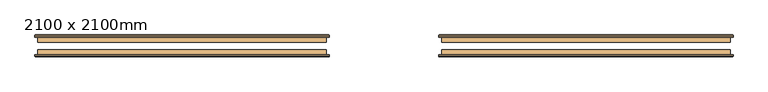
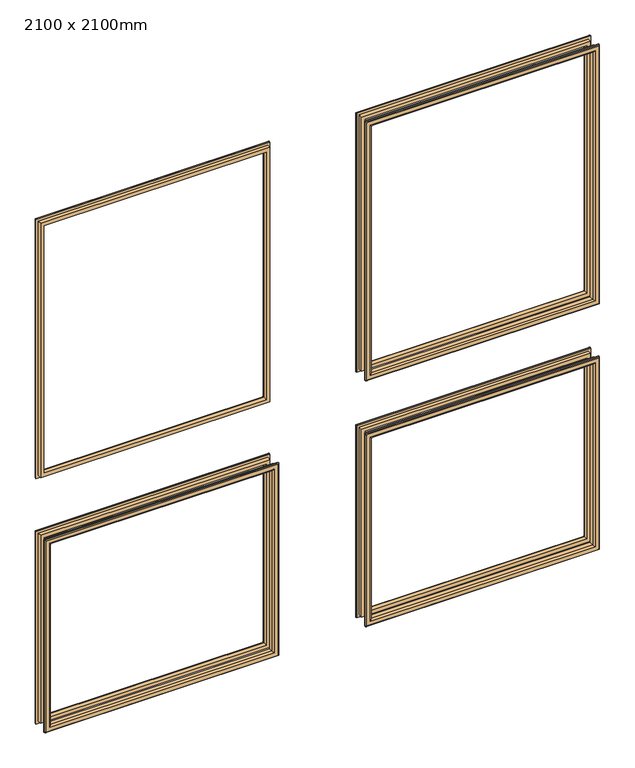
"""IFC4 building model written with IfcOpenShell, lengths in millimetres: door geometry, Дверь-Наружная-Двойная-Две_Свет : 2100 x 2100mm."""

from ifc_helpers import new_model, si_unit, frame, origin, place, context, project, spatial, ellipse_curve, source, transform, mapped, element, save
from ifc_brep_helpers import plane_surface, cylinder_surface, advanced_brep


def door_2100_x_2100mm_6a0c21b3(model_context):
    return source(origin(), model_context, "Body", "AdvancedBrep", [
        advanced_brep(
        [(-900.0, 178.85, 900.0), (-900.0, 191.35, 900.0), (-900.0, 191.35, 250.0), (-900.0, 178.85, 250.0), (-888.0, 192.35, 888.0), (-888.0, 178.85, 888.0), (-888.0, 178.85, 262.0), (-888.0, 192.35, 262.0), (-893.0, 197.35, 893.0), (-893.0, 197.35, 257.0), (-908.0, 195.35, 908.0), (-906.0, 197.35, 906.0), (-906.0, 197.35, 244.0), (-908.0, 195.35, 242.0), (-908.0, 191.35, 908.0), (-908.0, 191.35, 242.0), (-150.0, 191.35, 250.0), (-150.0, 178.85, 250.0), (-162.0, 178.85, 262.0), (-162.0, 192.35, 262.0), (-157.0, 197.35, 257.0), (-144.0, 197.35, 244.0), (-142.0, 195.35, 242.0), (-142.0, 191.35, 242.0), (-150.0, 191.35, 900.0), (-150.0, 178.85, 900.0), (-162.0, 178.85, 888.0), (-162.0, 192.35, 888.0), (-157.0, 197.35, 893.0), (-144.0, 197.35, 906.0), (-142.0, 195.35, 908.0), (-142.0, 191.35, 908.0)],
        [
            (0, 1),
            (1, 2),
            (2, 3),
            (3, 0),
            (4, 5),
            (5, 6),
            (6, 7),
            (7, 4),
            (8, 4, ellipse_curve(frame((-893.0, 192.35, 893.0), z_axis=(-0.7071067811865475, 0.0, -0.7071067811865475), x_axis=(-0.7071067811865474, 0.0, 0.7071067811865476)), 7.0710678, 5.0)),
            (7, 9, ellipse_curve(frame((-893.0, 192.35, 257.0), z_axis=(-0.7071067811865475, 0.0, 0.7071067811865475), x_axis=(0.7071067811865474, 0.0, 0.7071067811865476)), 7.0710678, 5.0)),
            (9, 8),
            (10, 11, ellipse_curve(frame((-906.0, 195.35, 906.0), z_axis=(-0.7071067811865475, 0.0, -0.7071067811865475), x_axis=(-0.7071067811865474, 0.0, 0.7071067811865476)), 2.8284271, 2.0)),
            (11, 12),
            (12, 13, ellipse_curve(frame((-906.0, 195.35, 244.0), z_axis=(-0.7071067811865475, 0.0, 0.7071067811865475), x_axis=(0.7071067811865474, 0.0, 0.7071067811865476)), 2.8284271, 2.0)),
            (13, 10),
            (14, 10),
            (13, 15),
            (15, 14),
            (2, 16),
            (16, 17),
            (17, 3),
            (6, 18),
            (18, 19),
            (19, 7),
            (19, 20, ellipse_curve(frame((-157.0, 192.35, 257.0), z_axis=(-0.7071067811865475, 0.0, -0.7071067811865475), x_axis=(-0.7071067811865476, 0.0, 0.7071067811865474)), 7.0710678, 5.0)),
            (20, 9),
            (12, 21),
            (21, 22, ellipse_curve(frame((-144.0, 195.35, 244.0), z_axis=(-0.7071067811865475, 0.0, -0.7071067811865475), x_axis=(-0.7071067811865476, 0.0, 0.7071067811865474)), 2.8284271, 2.0)),
            (22, 13),
            (22, 23),
            (23, 15),
            (16, 24),
            (24, 25),
            (25, 17),
            (18, 26),
            (26, 27),
            (27, 19),
            (27, 28, ellipse_curve(frame((-157.0, 192.35, 893.0), z_axis=(0.7071067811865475, 0.0, -0.7071067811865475), x_axis=(-0.7071067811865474, 0.0, -0.7071067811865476)), 7.0710678, 5.0)),
            (28, 20),
            (21, 29),
            (29, 30, ellipse_curve(frame((-144.0, 195.35, 906.0), z_axis=(0.7071067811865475, 0.0, -0.7071067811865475), x_axis=(-0.7071067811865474, 0.0, -0.7071067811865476)), 2.8284271, 2.0)),
            (30, 22),
            (30, 31),
            (31, 23),
            (31, 14),
            (1, 24),
            (0, 25),
            (5, 26),
            (4, 27),
            (8, 28),
            (11, 29),
            (10, 30),
        ],
        [
            plane_surface(frame((-900.0, 191.35, 900.0), z_axis=(-1.0, 0.0, 0.0), x_axis=(0.0, 0.0, -1.0))),
            plane_surface(frame((-888.0, 178.85, 888.0), z_axis=(1.0, 0.0, 0.0), x_axis=(0.0, 0.0, -1.0))),
            cylinder_surface(frame((-893.0, 192.35, 900.0), z_axis=(0.0, 0.0, 1.0), x_axis=(-1.0, 0.0, 0.0)), 5.0),
            cylinder_surface(frame((-906.0, 195.35, 900.0), z_axis=(0.0, 0.0, 1.0), x_axis=(-1.0, 0.0, 0.0)), 2.0),
            plane_surface(frame((-908.0, 195.35, 908.0), z_axis=(-1.0, 0.0, 0.0), x_axis=(0.0, 0.0, -1.0))),
            plane_surface(frame((-900.0, 191.35, 250.0), z_axis=(0.0, 0.0, -1.0), x_axis=(1.0, 0.0, 0.0))),
            plane_surface(frame((-888.0, 178.85, 262.0), z_axis=(0.0, 0.0, 1.0), x_axis=(1.0, 0.0, 0.0))),
            cylinder_surface(frame((-900.0, 192.35, 257.0), z_axis=(-1.0, 0.0, 0.0), x_axis=(0.0, 0.0, -1.0)), 5.0),
            cylinder_surface(frame((-900.0, 195.35, 244.0), z_axis=(-1.0, 0.0, 0.0), x_axis=(0.0, 0.0, -1.0)), 2.0),
            plane_surface(frame((-908.0, 195.35, 242.0), z_axis=(0.0, 0.0, -1.0), x_axis=(1.0, 0.0, 0.0))),
            plane_surface(frame((-150.0, 191.35, 250.0), z_axis=(1.0, 0.0, 0.0), x_axis=(0.0, 0.0, 1.0))),
            plane_surface(frame((-162.0, 178.85, 262.0), z_axis=(-1.0, 0.0, 0.0), x_axis=(0.0, 0.0, 1.0))),
            cylinder_surface(frame((-157.0, 192.35, 250.0), z_axis=(0.0, 0.0, -1.0), x_axis=(1.0, 0.0, 0.0)), 5.0),
            cylinder_surface(frame((-144.0, 195.35, 250.0), z_axis=(0.0, 0.0, -1.0), x_axis=(1.0, 0.0, 0.0)), 2.0),
            plane_surface(frame((-142.0, 195.35, 242.0), z_axis=(1.0, 0.0, 0.0), x_axis=(0.0, 0.0, 1.0))),
            plane_surface(frame((-142.0, 191.35, 908.0), z_axis=(0.0, -1.0, 0.0), x_axis=(-1.0, 0.0, 0.0))),
            plane_surface(frame((-150.0, 191.35, 900.0), z_axis=(0.0, 0.0, 1.0), x_axis=(-1.0, 0.0, 0.0))),
            plane_surface(frame((-150.0, 178.85, 900.0), z_axis=(0.0, -1.0, 0.0), x_axis=(-1.0, 0.0, 0.0))),
            plane_surface(frame((-162.0, 178.85, 888.0), z_axis=(0.0, 0.0, -1.0), x_axis=(-1.0, 0.0, 0.0))),
            cylinder_surface(frame((-150.0, 192.35, 893.0), z_axis=(1.0, 0.0, 0.0), x_axis=(0.0, 0.0, 1.0)), 5.0),
            plane_surface(frame((-157.0, 197.35, 893.0), z_axis=(0.0, 1.0, 0.0), x_axis=(-1.0, 0.0, 0.0))),
            cylinder_surface(frame((-150.0, 195.35, 906.0), z_axis=(1.0, 0.0, 0.0), x_axis=(0.0, 0.0, 1.0)), 2.0),
            plane_surface(frame((-142.0, 195.35, 908.0), z_axis=(0.0, 0.0, 1.0), x_axis=(-1.0, 0.0, 0.0))),
        ],
        [
            (0, [[1, 2, 3, 4]]),
            (1, [[5, 6, 7, 8]]),
            (2, [[9, -8, 10, 11]]),
            (3, [[12, 13, 14, 15]]),
            (4, [[16, -15, 17, 18]]),
            (5, [[-3, 19, 20, 21]]),
            (6, [[-7, 22, 23, 24]]),
            (7, [[-10, -24, 25, 26]]),
            (8, [[-14, 27, 28, 29]]),
            (9, [[-17, -29, 30, 31]]),
            (10, [[-20, 32, 33, 34]]),
            (11, [[-23, 35, 36, 37]]),
            (12, [[-25, -37, 38, 39]]),
            (13, [[-28, 40, 41, 42]]),
            (14, [[-30, -42, 43, 44]]),
            (15, [[-31, -44, 45, -18], [46, -32, -19, -2]]),
            (16, [[-33, -46, -1, 47]]),
            (17, [[-21, -34, -47, -4], [48, -35, -22, -6]]),
            (18, [[-36, -48, -5, 49]]),
            (19, [[-38, -49, -9, 50]]),
            (20, [[51, -40, -27, -13], [-26, -39, -50, -11]]),
            (21, [[-41, -51, -12, 52]]),
            (22, [[-43, -52, -16, -45]]),
        ],
    ),
        advanced_brep(
        [(150.0, 178.85, 900.0), (150.0, 191.35, 900.0), (150.0, 191.35, 250.0), (150.0, 178.85, 250.0), (162.0, 192.35, 888.0), (162.0, 178.85, 888.0), (162.0, 178.85, 262.0), (162.0, 192.35, 262.0), (157.0, 197.35, 893.0), (157.0, 197.35, 257.0), (142.0, 195.35, 908.0), (144.0, 197.35, 906.0), (144.0, 197.35, 244.0), (142.0, 195.35, 242.0), (142.0, 191.35, 908.0), (142.0, 191.35, 242.0), (900.0, 191.35, 250.0), (900.0, 178.85, 250.0), (888.0, 178.85, 262.0), (888.0, 192.35, 262.0), (893.0, 197.35, 257.0), (906.0, 197.35, 244.0), (908.0, 195.35, 242.0), (908.0, 191.35, 242.0), (900.0, 191.35, 900.0), (900.0, 178.85, 900.0), (888.0, 178.85, 888.0), (888.0, 192.35, 888.0), (893.0, 197.35, 893.0), (906.0, 197.35, 906.0), (908.0, 195.35, 908.0), (908.0, 191.35, 908.0)],
        [
            (0, 1),
            (1, 2),
            (2, 3),
            (3, 0),
            (4, 5),
            (5, 6),
            (6, 7),
            (7, 4),
            (8, 4, ellipse_curve(frame((157.0, 192.35, 893.0), z_axis=(-0.7071067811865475, 0.0, -0.7071067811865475), x_axis=(-0.7071067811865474, 0.0, 0.7071067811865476)), 7.0710678, 5.0)),
            (7, 9, ellipse_curve(frame((157.0, 192.35, 257.0), z_axis=(-0.7071067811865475, 0.0, 0.7071067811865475), x_axis=(0.7071067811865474, 0.0, 0.7071067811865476)), 7.0710678, 5.0)),
            (9, 8),
            (10, 11, ellipse_curve(frame((144.0, 195.35, 906.0), z_axis=(-0.7071067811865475, 0.0, -0.7071067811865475), x_axis=(-0.7071067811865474, 0.0, 0.7071067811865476)), 2.8284271, 2.0)),
            (11, 12),
            (12, 13, ellipse_curve(frame((144.0, 195.35, 244.0), z_axis=(-0.7071067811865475, 0.0, 0.7071067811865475), x_axis=(0.7071067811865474, 0.0, 0.7071067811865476)), 2.8284271, 2.0)),
            (13, 10),
            (14, 10),
            (13, 15),
            (15, 14),
            (2, 16),
            (16, 17),
            (17, 3),
            (6, 18),
            (18, 19),
            (19, 7),
            (19, 20, ellipse_curve(frame((893.0, 192.35, 257.0), z_axis=(-0.7071067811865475, 0.0, -0.7071067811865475), x_axis=(-0.7071067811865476, 0.0, 0.7071067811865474)), 7.0710678, 5.0)),
            (20, 9),
            (12, 21),
            (21, 22, ellipse_curve(frame((906.0, 195.35, 244.0), z_axis=(-0.7071067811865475, 0.0, -0.7071067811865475), x_axis=(-0.7071067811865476, 0.0, 0.7071067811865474)), 2.8284271, 2.0)),
            (22, 13),
            (22, 23),
            (23, 15),
            (16, 24),
            (24, 25),
            (25, 17),
            (18, 26),
            (26, 27),
            (27, 19),
            (27, 28, ellipse_curve(frame((893.0, 192.35, 893.0), z_axis=(0.7071067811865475, 0.0, -0.7071067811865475), x_axis=(-0.7071067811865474, 0.0, -0.7071067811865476)), 7.0710678, 5.0)),
            (28, 20),
            (21, 29),
            (29, 30, ellipse_curve(frame((906.0, 195.35, 906.0), z_axis=(0.7071067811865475, 0.0, -0.7071067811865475), x_axis=(-0.7071067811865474, 0.0, -0.7071067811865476)), 2.8284271, 2.0)),
            (30, 22),
            (30, 31),
            (31, 23),
            (31, 14),
            (1, 24),
            (0, 25),
            (5, 26),
            (4, 27),
            (8, 28),
            (11, 29),
            (10, 30),
        ],
        [
            plane_surface(frame((150.0, 191.35, 900.0), z_axis=(-1.0, 0.0, 0.0), x_axis=(0.0, 0.0, -1.0))),
            plane_surface(frame((162.0, 178.85, 888.0), z_axis=(1.0, 0.0, 0.0), x_axis=(0.0, 0.0, -1.0))),
            cylinder_surface(frame((157.0, 192.35, 900.0), z_axis=(0.0, 0.0, 1.0), x_axis=(-1.0, 0.0, 0.0)), 5.0),
            cylinder_surface(frame((144.0, 195.35, 900.0), z_axis=(0.0, 0.0, 1.0), x_axis=(-1.0, 0.0, 0.0)), 2.0),
            plane_surface(frame((142.0, 195.35, 908.0), z_axis=(-1.0, 0.0, 0.0), x_axis=(0.0, 0.0, -1.0))),
            plane_surface(frame((150.0, 191.35, 250.0), z_axis=(0.0, 0.0, -1.0), x_axis=(1.0, 0.0, 0.0))),
            plane_surface(frame((162.0, 178.85, 262.0), z_axis=(0.0, 0.0, 1.0), x_axis=(1.0, 0.0, 0.0))),
            cylinder_surface(frame((150.0, 192.35, 257.0), z_axis=(-1.0, 0.0, 0.0), x_axis=(0.0, 0.0, -1.0)), 5.0),
            cylinder_surface(frame((150.0, 195.35, 244.0), z_axis=(-1.0, 0.0, 0.0), x_axis=(0.0, 0.0, -1.0)), 2.0),
            plane_surface(frame((142.0, 195.35, 242.0), z_axis=(0.0, 0.0, -1.0), x_axis=(1.0, 0.0, 0.0))),
            plane_surface(frame((900.0, 191.35, 250.0), z_axis=(1.0, 0.0, 0.0), x_axis=(0.0, 0.0, 1.0))),
            plane_surface(frame((888.0, 178.85, 262.0), z_axis=(-1.0, 0.0, 0.0), x_axis=(0.0, 0.0, 1.0))),
            cylinder_surface(frame((893.0, 192.35, 250.0), z_axis=(0.0, 0.0, -1.0), x_axis=(1.0, 0.0, 0.0)), 5.0),
            cylinder_surface(frame((906.0, 195.35, 250.0), z_axis=(0.0, 0.0, -1.0), x_axis=(1.0, 0.0, 0.0)), 2.0),
            plane_surface(frame((908.0, 195.35, 242.0), z_axis=(1.0, 0.0, 0.0), x_axis=(0.0, 0.0, 1.0))),
            plane_surface(frame((908.0, 191.35, 908.0), z_axis=(0.0, -1.0, 0.0), x_axis=(-1.0, 0.0, 0.0))),
            plane_surface(frame((900.0, 191.35, 900.0), z_axis=(0.0, 0.0, 1.0), x_axis=(-1.0, 0.0, 0.0))),
            plane_surface(frame((900.0, 178.85, 900.0), z_axis=(0.0, -1.0, 0.0), x_axis=(-1.0, 0.0, 0.0))),
            plane_surface(frame((888.0, 178.85, 888.0), z_axis=(0.0, 0.0, -1.0), x_axis=(-1.0, 0.0, 0.0))),
            cylinder_surface(frame((900.0, 192.35, 893.0), z_axis=(1.0, 0.0, 0.0), x_axis=(0.0, 0.0, 1.0)), 5.0),
            plane_surface(frame((893.0, 197.35, 893.0), z_axis=(0.0, 1.0, 0.0), x_axis=(-1.0, 0.0, 0.0))),
            cylinder_surface(frame((900.0, 195.35, 906.0), z_axis=(1.0, 0.0, 0.0), x_axis=(0.0, 0.0, 1.0)), 2.0),
            plane_surface(frame((908.0, 195.35, 908.0), z_axis=(0.0, 0.0, 1.0), x_axis=(-1.0, 0.0, 0.0))),
        ],
        [
            (0, [[1, 2, 3, 4]]),
            (1, [[5, 6, 7, 8]]),
            (2, [[9, -8, 10, 11]]),
            (3, [[12, 13, 14, 15]]),
            (4, [[16, -15, 17, 18]]),
            (5, [[-3, 19, 20, 21]]),
            (6, [[-7, 22, 23, 24]]),
            (7, [[-10, -24, 25, 26]]),
            (8, [[-14, 27, 28, 29]]),
            (9, [[-17, -29, 30, 31]]),
            (10, [[-20, 32, 33, 34]]),
            (11, [[-23, 35, 36, 37]]),
            (12, [[-25, -37, 38, 39]]),
            (13, [[-28, 40, 41, 42]]),
            (14, [[-30, -42, 43, 44]]),
            (15, [[-31, -44, 45, -18], [46, -32, -19, -2]]),
            (16, [[-33, -46, -1, 47]]),
            (17, [[-21, -34, -47, -4], [48, -35, -22, -6]]),
            (18, [[-36, -48, -5, 49]]),
            (19, [[-38, -49, -9, 50]]),
            (20, [[51, -40, -27, -13], [-26, -39, -50, -11]]),
            (21, [[-41, -51, -12, 52]]),
            (22, [[-43, -52, -16, -45]]),
        ],
    ),
        advanced_brep(
        [(150.0, 178.85, 1980.0), (150.0, 191.35, 1980.0), (150.0, 191.35, 1100.0), (150.0, 178.85, 1100.0), (162.0, 192.35, 1968.0), (162.0, 178.85, 1968.0), (162.0, 178.85, 1112.0), (162.0, 192.35, 1112.0), (157.0, 197.35, 1973.0), (157.0, 197.35, 1107.0), (142.0, 195.35, 1988.0), (144.0, 197.35, 1986.0), (144.0, 197.35, 1094.0), (142.0, 195.35, 1092.0), (142.0, 191.35, 1988.0), (142.0, 191.35, 1092.0), (900.0, 191.35, 1100.0), (900.0, 178.85, 1100.0), (888.0, 178.85, 1112.0), (888.0, 192.35, 1112.0), (893.0, 197.35, 1107.0), (906.0, 197.35, 1094.0), (908.0, 195.35, 1092.0), (908.0, 191.35, 1092.0), (900.0, 191.35, 1980.0), (900.0, 178.85, 1980.0), (888.0, 178.85, 1968.0), (888.0, 192.35, 1968.0), (893.0, 197.35, 1973.0), (906.0, 197.35, 1986.0), (908.0, 195.35, 1988.0), (908.0, 191.35, 1988.0)],
        [
            (0, 1),
            (1, 2),
            (2, 3),
            (3, 0),
            (4, 5),
            (5, 6),
            (6, 7),
            (7, 4),
            (8, 4, ellipse_curve(frame((157.0, 192.35, 1973.0), z_axis=(-0.7071067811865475, 0.0, -0.7071067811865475), x_axis=(-0.7071067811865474, 0.0, 0.7071067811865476)), 7.0710678, 5.0)),
            (7, 9, ellipse_curve(frame((157.0, 192.35, 1107.0), z_axis=(-0.7071067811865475, 0.0, 0.7071067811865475), x_axis=(0.7071067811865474, 0.0, 0.7071067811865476)), 7.0710678, 5.0)),
            (9, 8),
            (10, 11, ellipse_curve(frame((144.0, 195.35, 1986.0), z_axis=(-0.7071067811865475, 0.0, -0.7071067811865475), x_axis=(-0.7071067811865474, 0.0, 0.7071067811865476)), 2.8284271, 2.0)),
            (11, 12),
            (12, 13, ellipse_curve(frame((144.0, 195.35, 1094.0), z_axis=(-0.7071067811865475, 0.0, 0.7071067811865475), x_axis=(0.7071067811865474, 0.0, 0.7071067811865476)), 2.8284271, 2.0)),
            (13, 10),
            (14, 10),
            (13, 15),
            (15, 14),
            (2, 16),
            (16, 17),
            (17, 3),
            (6, 18),
            (18, 19),
            (19, 7),
            (19, 20, ellipse_curve(frame((893.0, 192.35, 1107.0), z_axis=(-0.7071067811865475, 0.0, -0.7071067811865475), x_axis=(-0.7071067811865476, 0.0, 0.7071067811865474)), 7.0710678, 5.0)),
            (20, 9),
            (12, 21),
            (21, 22, ellipse_curve(frame((906.0, 195.35, 1094.0), z_axis=(-0.7071067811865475, 0.0, -0.7071067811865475), x_axis=(-0.7071067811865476, 0.0, 0.7071067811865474)), 2.8284271, 2.0)),
            (22, 13),
            (22, 23),
            (23, 15),
            (16, 24),
            (24, 25),
            (25, 17),
            (18, 26),
            (26, 27),
            (27, 19),
            (27, 28, ellipse_curve(frame((893.0, 192.35, 1973.0), z_axis=(0.7071067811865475, 0.0, -0.7071067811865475), x_axis=(-0.7071067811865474, 0.0, -0.7071067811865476)), 7.0710678, 5.0)),
            (28, 20),
            (21, 29),
            (29, 30, ellipse_curve(frame((906.0, 195.35, 1986.0), z_axis=(0.7071067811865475, 0.0, -0.7071067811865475), x_axis=(-0.7071067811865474, 0.0, -0.7071067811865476)), 2.8284271, 2.0)),
            (30, 22),
            (30, 31),
            (31, 23),
            (31, 14),
            (1, 24),
            (0, 25),
            (5, 26),
            (4, 27),
            (8, 28),
            (11, 29),
            (10, 30),
        ],
        [
            plane_surface(frame((150.0, 191.35, 1980.0), z_axis=(-1.0, 0.0, 0.0), x_axis=(0.0, 0.0, -1.0))),
            plane_surface(frame((162.0, 178.85, 1968.0), z_axis=(1.0, 0.0, 0.0), x_axis=(0.0, 0.0, -1.0))),
            cylinder_surface(frame((157.0, 192.35, 1980.0), z_axis=(0.0, 0.0, 1.0), x_axis=(-1.0, 0.0, 0.0)), 5.0),
            cylinder_surface(frame((144.0, 195.35, 1980.0), z_axis=(0.0, 0.0, 1.0), x_axis=(-1.0, 0.0, 0.0)), 2.0),
            plane_surface(frame((142.0, 195.35, 1988.0), z_axis=(-1.0, 0.0, 0.0), x_axis=(0.0, 0.0, -1.0))),
            plane_surface(frame((150.0, 191.35, 1100.0), z_axis=(0.0, 0.0, -1.0), x_axis=(1.0, 0.0, 0.0))),
            plane_surface(frame((162.0, 178.85, 1112.0), z_axis=(0.0, 0.0, 1.0), x_axis=(1.0, 0.0, 0.0))),
            cylinder_surface(frame((150.0, 192.35, 1107.0), z_axis=(-1.0, 0.0, 0.0), x_axis=(0.0, 0.0, -1.0)), 5.0),
            cylinder_surface(frame((150.0, 195.35, 1094.0), z_axis=(-1.0, 0.0, 0.0), x_axis=(0.0, 0.0, -1.0)), 2.0),
            plane_surface(frame((142.0, 195.35, 1092.0), z_axis=(0.0, 0.0, -1.0), x_axis=(1.0, 0.0, 0.0))),
            plane_surface(frame((900.0, 191.35, 1100.0), z_axis=(1.0, 0.0, 0.0), x_axis=(0.0, 0.0, 1.0))),
            plane_surface(frame((888.0, 178.85, 1112.0), z_axis=(-1.0, 0.0, 0.0), x_axis=(0.0, 0.0, 1.0))),
            cylinder_surface(frame((893.0, 192.35, 1100.0), z_axis=(0.0, 0.0, -1.0), x_axis=(1.0, 0.0, 0.0)), 5.0),
            cylinder_surface(frame((906.0, 195.35, 1100.0), z_axis=(0.0, 0.0, -1.0), x_axis=(1.0, 0.0, 0.0)), 2.0),
            plane_surface(frame((908.0, 195.35, 1092.0), z_axis=(1.0, 0.0, 0.0), x_axis=(0.0, 0.0, 1.0))),
            plane_surface(frame((908.0, 191.35, 1988.0), z_axis=(0.0, -1.0, 0.0), x_axis=(-1.0, 0.0, 0.0))),
            plane_surface(frame((900.0, 191.35, 1980.0), z_axis=(0.0, 0.0, 1.0), x_axis=(-1.0, 0.0, 0.0))),
            plane_surface(frame((900.0, 178.85, 1980.0), z_axis=(0.0, -1.0, 0.0), x_axis=(-1.0, 0.0, 0.0))),
            plane_surface(frame((888.0, 178.85, 1968.0), z_axis=(0.0, 0.0, -1.0), x_axis=(-1.0, 0.0, 0.0))),
            cylinder_surface(frame((900.0, 192.35, 1973.0), z_axis=(1.0, 0.0, 0.0), x_axis=(0.0, 0.0, 1.0)), 5.0),
            plane_surface(frame((893.0, 197.35, 1973.0), z_axis=(0.0, 1.0, 0.0), x_axis=(-1.0, 0.0, 0.0))),
            cylinder_surface(frame((900.0, 195.35, 1986.0), z_axis=(1.0, 0.0, 0.0), x_axis=(0.0, 0.0, 1.0)), 2.0),
            plane_surface(frame((908.0, 195.35, 1988.0), z_axis=(0.0, 0.0, 1.0), x_axis=(-1.0, 0.0, 0.0))),
        ],
        [
            (0, [[1, 2, 3, 4]]),
            (1, [[5, 6, 7, 8]]),
            (2, [[9, -8, 10, 11]]),
            (3, [[12, 13, 14, 15]]),
            (4, [[16, -15, 17, 18]]),
            (5, [[-3, 19, 20, 21]]),
            (6, [[-7, 22, 23, 24]]),
            (7, [[-10, -24, 25, 26]]),
            (8, [[-14, 27, 28, 29]]),
            (9, [[-17, -29, 30, 31]]),
            (10, [[-20, 32, 33, 34]]),
            (11, [[-23, 35, 36, 37]]),
            (12, [[-25, -37, 38, 39]]),
            (13, [[-28, 40, 41, 42]]),
            (14, [[-30, -42, 43, 44]]),
            (15, [[-31, -44, 45, -18], [46, -32, -19, -2]]),
            (16, [[-33, -46, -1, 47]]),
            (17, [[-21, -34, -47, -4], [48, -35, -22, -6]]),
            (18, [[-36, -48, -5, 49]]),
            (19, [[-38, -49, -9, 50]]),
            (20, [[51, -40, -27, -13], [-26, -39, -50, -11]]),
            (21, [[-41, -51, -12, 52]]),
            (22, [[-43, -52, -16, -45]]),
        ],
    ),
        advanced_brep(
        [(-900.0, 178.85, 1980.0), (-900.0, 191.35, 1980.0), (-900.0, 191.35, 1100.0), (-900.0, 178.85, 1100.0), (-888.0, 192.35, 1968.0), (-888.0, 178.85, 1968.0), (-888.0, 178.85, 1112.0), (-888.0, 192.35, 1112.0), (-893.0, 197.35, 1973.0), (-893.0, 197.35, 1107.0), (-908.0, 195.35, 1988.0), (-906.0, 197.35, 1986.0), (-906.0, 197.35, 1094.0), (-908.0, 195.35, 1092.0), (-908.0, 191.35, 1988.0), (-908.0, 191.35, 1092.0), (-150.0, 191.35, 1100.0), (-150.0, 178.85, 1100.0), (-162.0, 178.85, 1112.0), (-162.0, 192.35, 1112.0), (-157.0, 197.35, 1107.0), (-144.0, 197.35, 1094.0), (-142.0, 195.35, 1092.0), (-142.0, 191.35, 1092.0), (-150.0, 191.35, 1980.0), (-150.0, 178.85, 1980.0), (-162.0, 178.85, 1968.0), (-162.0, 192.35, 1968.0), (-157.0, 197.35, 1973.0), (-144.0, 197.35, 1986.0), (-142.0, 195.35, 1988.0), (-142.0, 191.35, 1988.0)],
        [
            (0, 1),
            (1, 2),
            (2, 3),
            (3, 0),
            (4, 5),
            (5, 6),
            (6, 7),
            (7, 4),
            (8, 4, ellipse_curve(frame((-893.0, 192.35, 1973.0), z_axis=(-0.7071067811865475, 0.0, -0.7071067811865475), x_axis=(-0.7071067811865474, 0.0, 0.7071067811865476)), 7.0710678, 5.0)),
            (7, 9, ellipse_curve(frame((-893.0, 192.35, 1107.0), z_axis=(-0.7071067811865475, 0.0, 0.7071067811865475), x_axis=(0.7071067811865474, 0.0, 0.7071067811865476)), 7.0710678, 5.0)),
            (9, 8),
            (10, 11, ellipse_curve(frame((-906.0, 195.35, 1986.0), z_axis=(-0.7071067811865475, 0.0, -0.7071067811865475), x_axis=(-0.7071067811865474, 0.0, 0.7071067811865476)), 2.8284271, 2.0)),
            (11, 12),
            (12, 13, ellipse_curve(frame((-906.0, 195.35, 1094.0), z_axis=(-0.7071067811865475, 0.0, 0.7071067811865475), x_axis=(0.7071067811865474, 0.0, 0.7071067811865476)), 2.8284271, 2.0)),
            (13, 10),
            (14, 10),
            (13, 15),
            (15, 14),
            (2, 16),
            (16, 17),
            (17, 3),
            (6, 18),
            (18, 19),
            (19, 7),
            (19, 20, ellipse_curve(frame((-157.0, 192.35, 1107.0), z_axis=(-0.7071067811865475, 0.0, -0.7071067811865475), x_axis=(-0.7071067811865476, 0.0, 0.7071067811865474)), 7.0710678, 5.0)),
            (20, 9),
            (12, 21),
            (21, 22, ellipse_curve(frame((-144.0, 195.35, 1094.0), z_axis=(-0.7071067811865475, 0.0, -0.7071067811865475), x_axis=(-0.7071067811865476, 0.0, 0.7071067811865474)), 2.8284271, 2.0)),
            (22, 13),
            (22, 23),
            (23, 15),
            (16, 24),
            (24, 25),
            (25, 17),
            (18, 26),
            (26, 27),
            (27, 19),
            (27, 28, ellipse_curve(frame((-157.0, 192.35, 1973.0), z_axis=(0.7071067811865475, 0.0, -0.7071067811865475), x_axis=(-0.7071067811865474, 0.0, -0.7071067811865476)), 7.0710678, 5.0)),
            (28, 20),
            (21, 29),
            (29, 30, ellipse_curve(frame((-144.0, 195.35, 1986.0), z_axis=(0.7071067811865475, 0.0, -0.7071067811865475), x_axis=(-0.7071067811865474, 0.0, -0.7071067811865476)), 2.8284271, 2.0)),
            (30, 22),
            (30, 31),
            (31, 23),
            (31, 14),
            (1, 24),
            (0, 25),
            (5, 26),
            (4, 27),
            (8, 28),
            (11, 29),
            (10, 30),
        ],
        [
            plane_surface(frame((-900.0, 191.35, 1980.0), z_axis=(-1.0, 0.0, 0.0), x_axis=(0.0, 0.0, -1.0))),
            plane_surface(frame((-888.0, 178.85, 1968.0), z_axis=(1.0, 0.0, 0.0), x_axis=(0.0, 0.0, -1.0))),
            cylinder_surface(frame((-893.0, 192.35, 1980.0), z_axis=(0.0, 0.0, 1.0), x_axis=(-1.0, 0.0, 0.0)), 5.0),
            cylinder_surface(frame((-906.0, 195.35, 1980.0), z_axis=(0.0, 0.0, 1.0), x_axis=(-1.0, 0.0, 0.0)), 2.0),
            plane_surface(frame((-908.0, 195.35, 1988.0), z_axis=(-1.0, 0.0, 0.0), x_axis=(0.0, 0.0, -1.0))),
            plane_surface(frame((-900.0, 191.35, 1100.0), z_axis=(0.0, 0.0, -1.0), x_axis=(1.0, 0.0, 0.0))),
            plane_surface(frame((-888.0, 178.85, 1112.0), z_axis=(0.0, 0.0, 1.0), x_axis=(1.0, 0.0, 0.0))),
            cylinder_surface(frame((-900.0, 192.35, 1107.0), z_axis=(-1.0, 0.0, 0.0), x_axis=(0.0, 0.0, -1.0)), 5.0),
            cylinder_surface(frame((-900.0, 195.35, 1094.0), z_axis=(-1.0, 0.0, 0.0), x_axis=(0.0, 0.0, -1.0)), 2.0),
            plane_surface(frame((-908.0, 195.35, 1092.0), z_axis=(0.0, 0.0, -1.0), x_axis=(1.0, 0.0, 0.0))),
            plane_surface(frame((-150.0, 191.35, 1100.0), z_axis=(1.0, 0.0, 0.0), x_axis=(0.0, 0.0, 1.0))),
            plane_surface(frame((-162.0, 178.85, 1112.0), z_axis=(-1.0, 0.0, 0.0), x_axis=(0.0, 0.0, 1.0))),
            cylinder_surface(frame((-157.0, 192.35, 1100.0), z_axis=(0.0, 0.0, -1.0), x_axis=(1.0, 0.0, 0.0)), 5.0),
            cylinder_surface(frame((-144.0, 195.35, 1100.0), z_axis=(0.0, 0.0, -1.0), x_axis=(1.0, 0.0, 0.0)), 2.0),
            plane_surface(frame((-142.0, 195.35, 1092.0), z_axis=(1.0, 0.0, 0.0), x_axis=(0.0, 0.0, 1.0))),
            plane_surface(frame((-142.0, 191.35, 1988.0), z_axis=(0.0, -1.0, 0.0), x_axis=(-1.0, 0.0, 0.0))),
            plane_surface(frame((-150.0, 191.35, 1980.0), z_axis=(0.0, 0.0, 1.0), x_axis=(-1.0, 0.0, 0.0))),
            plane_surface(frame((-150.0, 178.85, 1980.0), z_axis=(0.0, -1.0, 0.0), x_axis=(-1.0, 0.0, 0.0))),
            plane_surface(frame((-162.0, 178.85, 1968.0), z_axis=(0.0, 0.0, -1.0), x_axis=(-1.0, 0.0, 0.0))),
            cylinder_surface(frame((-150.0, 192.35, 1973.0), z_axis=(1.0, 0.0, 0.0), x_axis=(0.0, 0.0, 1.0)), 5.0),
            plane_surface(frame((-157.0, 197.35, 1973.0), z_axis=(0.0, 1.0, 0.0), x_axis=(-1.0, 0.0, 0.0))),
            cylinder_surface(frame((-150.0, 195.35, 1986.0), z_axis=(1.0, 0.0, 0.0), x_axis=(0.0, 0.0, 1.0)), 2.0),
            plane_surface(frame((-142.0, 195.35, 1988.0), z_axis=(0.0, 0.0, 1.0), x_axis=(-1.0, 0.0, 0.0))),
        ],
        [
            (0, [[1, 2, 3, 4]]),
            (1, [[5, 6, 7, 8]]),
            (2, [[9, -8, 10, 11]]),
            (3, [[12, 13, 14, 15]]),
            (4, [[16, -15, 17, 18]]),
            (5, [[-3, 19, 20, 21]]),
            (6, [[-7, 22, 23, 24]]),
            (7, [[-10, -24, 25, 26]]),
            (8, [[-14, 27, 28, 29]]),
            (9, [[-17, -29, 30, 31]]),
            (10, [[-20, 32, 33, 34]]),
            (11, [[-23, 35, 36, 37]]),
            (12, [[-25, -37, 38, 39]]),
            (13, [[-28, 40, 41, 42]]),
            (14, [[-30, -42, 43, 44]]),
            (15, [[-31, -44, 45, -18], [46, -32, -19, -2]]),
            (16, [[-33, -46, -1, 47]]),
            (17, [[-21, -34, -47, -4], [48, -35, -22, -6]]),
            (18, [[-36, -48, -5, 49]]),
            (19, [[-38, -49, -9, 50]]),
            (20, [[51, -40, -27, -13], [-26, -39, -50, -11]]),
            (21, [[-41, -51, -12, 52]]),
            (22, [[-43, -52, -16, -45]]),
        ],
    ),
        advanced_brep(
        [(-900.0, 158.85, 250.0), (-900.0, 146.35, 250.0), (-900.0, 146.35, 900.0), (-900.0, 158.85, 900.0), (-888.0, 145.35, 262.0), (-888.0, 158.85, 262.0), (-888.0, 158.85, 888.0), (-888.0, 145.35, 888.0), (-893.0, 140.35, 257.0), (-893.0, 140.35, 893.0), (-908.0, 142.35, 242.0), (-906.0, 140.35, 244.0), (-906.0, 140.35, 906.0), (-908.0, 142.35, 908.0), (-908.0, 146.35, 242.0), (-908.0, 146.35, 908.0), (-150.0, 146.35, 900.0), (-150.0, 158.85, 900.0), (-162.0, 158.85, 888.0), (-162.0, 145.35, 888.0), (-157.0, 140.35, 893.0), (-144.0, 140.35, 906.0), (-142.0, 142.35, 908.0), (-142.0, 146.35, 908.0), (-150.0, 146.35, 250.0), (-150.0, 158.85, 250.0), (-162.0, 158.85, 262.0), (-162.0, 145.35, 262.0), (-157.0, 140.35, 257.0), (-144.0, 140.35, 244.0), (-142.0, 142.35, 242.0), (-142.0, 146.35, 242.0)],
        [
            (0, 1),
            (1, 2),
            (2, 3),
            (3, 0),
            (4, 5),
            (5, 6),
            (6, 7),
            (7, 4),
            (8, 4, ellipse_curve(frame((-893.0, 145.35, 257.0), z_axis=(-0.7071067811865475, 0.0, 0.7071067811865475), x_axis=(-0.7071067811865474, 0.0, -0.7071067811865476)), 7.0710678, 5.0)),
            (7, 9, ellipse_curve(frame((-893.0, 145.35, 893.0), z_axis=(-0.7071067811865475, 0.0, -0.7071067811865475), x_axis=(0.7071067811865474, 0.0, -0.7071067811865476)), 7.0710678, 5.0)),
            (9, 8),
            (10, 11, ellipse_curve(frame((-906.0, 142.35, 244.0), z_axis=(-0.7071067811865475, 0.0, 0.7071067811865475), x_axis=(-0.7071067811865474, 0.0, -0.7071067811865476)), 2.8284271, 2.0)),
            (11, 12),
            (12, 13, ellipse_curve(frame((-906.0, 142.35, 906.0), z_axis=(-0.7071067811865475, 0.0, -0.7071067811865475), x_axis=(0.7071067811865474, 0.0, -0.7071067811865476)), 2.8284271, 2.0)),
            (13, 10),
            (14, 10),
            (13, 15),
            (15, 14),
            (2, 16),
            (16, 17),
            (17, 3),
            (6, 18),
            (18, 19),
            (19, 7),
            (19, 20, ellipse_curve(frame((-157.0, 145.35, 893.0), z_axis=(-0.7071067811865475, 0.0, 0.7071067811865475), x_axis=(-0.7071067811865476, 0.0, -0.7071067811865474)), 7.0710678, 5.0)),
            (20, 9),
            (12, 21),
            (21, 22, ellipse_curve(frame((-144.0, 142.35, 906.0), z_axis=(-0.7071067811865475, 0.0, 0.7071067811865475), x_axis=(-0.7071067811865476, 0.0, -0.7071067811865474)), 2.8284271, 2.0)),
            (22, 13),
            (22, 23),
            (23, 15),
            (16, 24),
            (24, 25),
            (25, 17),
            (18, 26),
            (26, 27),
            (27, 19),
            (27, 28, ellipse_curve(frame((-157.0, 145.35, 257.0), z_axis=(0.7071067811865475, 0.0, 0.7071067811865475), x_axis=(-0.7071067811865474, 0.0, 0.7071067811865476)), 7.0710678, 5.0)),
            (28, 20),
            (21, 29),
            (29, 30, ellipse_curve(frame((-144.0, 142.35, 244.0), z_axis=(0.7071067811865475, 0.0, 0.7071067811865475), x_axis=(-0.7071067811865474, 0.0, 0.7071067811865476)), 2.8284271, 2.0)),
            (30, 22),
            (30, 31),
            (31, 23),
            (31, 14),
            (1, 24),
            (0, 25),
            (5, 26),
            (4, 27),
            (8, 28),
            (11, 29),
            (10, 30),
        ],
        [
            plane_surface(frame((-900.0, 146.35, 250.0), z_axis=(-1.0, 0.0, 0.0), x_axis=(0.0, 0.0, 1.0))),
            plane_surface(frame((-888.0, 158.85, 262.0), z_axis=(1.0, 0.0, 0.0), x_axis=(0.0, 0.0, 1.0))),
            cylinder_surface(frame((-893.0, 145.35, 250.0), z_axis=(0.0, 0.0, -1.0), x_axis=(-1.0, 0.0, 0.0)), 5.0),
            cylinder_surface(frame((-906.0, 142.35, 250.0), z_axis=(0.0, 0.0, -1.0), x_axis=(-1.0, 0.0, 0.0)), 2.0),
            plane_surface(frame((-908.0, 142.35, 242.0), z_axis=(-1.0, 0.0, 0.0), x_axis=(0.0, 0.0, 1.0))),
            plane_surface(frame((-900.0, 146.35, 900.0), z_axis=(0.0, 0.0, 1.0), x_axis=(1.0, 0.0, 0.0))),
            plane_surface(frame((-888.0, 158.85, 888.0), z_axis=(0.0, 0.0, -1.0), x_axis=(1.0, 0.0, 0.0))),
            cylinder_surface(frame((-900.0, 145.35, 893.0), z_axis=(-1.0, 0.0, 0.0), x_axis=(0.0, 0.0, 1.0)), 5.0),
            cylinder_surface(frame((-900.0, 142.35, 906.0), z_axis=(-1.0, 0.0, 0.0), x_axis=(0.0, 0.0, 1.0)), 2.0),
            plane_surface(frame((-908.0, 142.35, 908.0), z_axis=(0.0, 0.0, 1.0), x_axis=(1.0, 0.0, 0.0))),
            plane_surface(frame((-150.0, 146.35, 900.0), z_axis=(1.0, 0.0, 0.0), x_axis=(0.0, 0.0, -1.0))),
            plane_surface(frame((-162.0, 158.85, 888.0), z_axis=(-1.0, 0.0, 0.0), x_axis=(0.0, 0.0, -1.0))),
            cylinder_surface(frame((-157.0, 145.35, 900.0), z_axis=(0.0, 0.0, 1.0), x_axis=(1.0, 0.0, 0.0)), 5.0),
            cylinder_surface(frame((-144.0, 142.35, 900.0), z_axis=(0.0, 0.0, 1.0), x_axis=(1.0, 0.0, 0.0)), 2.0),
            plane_surface(frame((-142.0, 142.35, 908.0), z_axis=(1.0, 0.0, 0.0), x_axis=(0.0, 0.0, -1.0))),
            plane_surface(frame((-142.0, 146.35, 242.0), z_axis=(0.0, 1.0, 0.0), x_axis=(-1.0, 0.0, 0.0))),
            plane_surface(frame((-150.0, 146.35, 250.0), z_axis=(0.0, 0.0, -1.0), x_axis=(-1.0, 0.0, 0.0))),
            plane_surface(frame((-150.0, 158.85, 250.0), z_axis=(0.0, 1.0, 0.0), x_axis=(-1.0, 0.0, 0.0))),
            plane_surface(frame((-162.0, 158.85, 262.0), z_axis=(0.0, 0.0, 1.0), x_axis=(-1.0, 0.0, 0.0))),
            cylinder_surface(frame((-150.0, 145.35, 257.0), z_axis=(1.0, 0.0, 0.0), x_axis=(0.0, 0.0, -1.0)), 5.0),
            plane_surface(frame((-157.0, 140.35, 257.0), z_axis=(0.0, -1.0, 0.0), x_axis=(-1.0, 0.0, 0.0))),
            cylinder_surface(frame((-150.0, 142.35, 244.0), z_axis=(1.0, 0.0, 0.0), x_axis=(0.0, 0.0, -1.0)), 2.0),
            plane_surface(frame((-142.0, 142.35, 242.0), z_axis=(0.0, 0.0, -1.0), x_axis=(-1.0, 0.0, 0.0))),
        ],
        [
            (0, [[1, 2, 3, 4]]),
            (1, [[5, 6, 7, 8]]),
            (2, [[9, -8, 10, 11]]),
            (3, [[12, 13, 14, 15]]),
            (4, [[16, -15, 17, 18]]),
            (5, [[-3, 19, 20, 21]]),
            (6, [[-7, 22, 23, 24]]),
            (7, [[-10, -24, 25, 26]]),
            (8, [[-14, 27, 28, 29]]),
            (9, [[-17, -29, 30, 31]]),
            (10, [[-20, 32, 33, 34]]),
            (11, [[-23, 35, 36, 37]]),
            (12, [[-25, -37, 38, 39]]),
            (13, [[-28, 40, 41, 42]]),
            (14, [[-30, -42, 43, 44]]),
            (15, [[-31, -44, 45, -18], [46, -32, -19, -2]]),
            (16, [[-33, -46, -1, 47]]),
            (17, [[-21, -34, -47, -4], [48, -35, -22, -6]]),
            (18, [[-36, -48, -5, 49]]),
            (19, [[-38, -49, -9, 50]]),
            (20, [[51, -40, -27, -13], [-26, -39, -50, -11]]),
            (21, [[-41, -51, -12, 52]]),
            (22, [[-43, -52, -16, -45]]),
        ],
    ),
        advanced_brep(
        [(150.0, 158.85, 250.0), (150.0, 146.35, 250.0), (150.0, 146.35, 900.0), (150.0, 158.85, 900.0), (162.0, 145.35, 262.0), (162.0, 158.85, 262.0), (162.0, 158.85, 888.0), (162.0, 145.35, 888.0), (157.0, 140.35, 257.0), (157.0, 140.35, 893.0), (142.0, 142.35, 242.0), (144.0, 140.35, 244.0), (144.0, 140.35, 906.0), (142.0, 142.35, 908.0), (142.0, 146.35, 242.0), (142.0, 146.35, 908.0), (900.0, 146.35, 900.0), (900.0, 158.85, 900.0), (888.0, 158.85, 888.0), (888.0, 145.35, 888.0), (893.0, 140.35, 893.0), (906.0, 140.35, 906.0), (908.0, 142.35, 908.0), (908.0, 146.35, 908.0), (900.0, 146.35, 250.0), (900.0, 158.85, 250.0), (888.0, 158.85, 262.0), (888.0, 145.35, 262.0), (893.0, 140.35, 257.0), (906.0, 140.35, 244.0), (908.0, 142.35, 242.0), (908.0, 146.35, 242.0)],
        [
            (0, 1),
            (1, 2),
            (2, 3),
            (3, 0),
            (4, 5),
            (5, 6),
            (6, 7),
            (7, 4),
            (8, 4, ellipse_curve(frame((157.0, 145.35, 257.0), z_axis=(-0.7071067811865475, 0.0, 0.7071067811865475), x_axis=(-0.7071067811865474, 0.0, -0.7071067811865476)), 7.0710678, 5.0)),
            (7, 9, ellipse_curve(frame((157.0, 145.35, 893.0), z_axis=(-0.7071067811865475, 0.0, -0.7071067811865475), x_axis=(0.7071067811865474, 0.0, -0.7071067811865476)), 7.0710678, 5.0)),
            (9, 8),
            (10, 11, ellipse_curve(frame((144.0, 142.35, 244.0), z_axis=(-0.7071067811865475, 0.0, 0.7071067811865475), x_axis=(-0.7071067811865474, 0.0, -0.7071067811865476)), 2.8284271, 2.0)),
            (11, 12),
            (12, 13, ellipse_curve(frame((144.0, 142.35, 906.0), z_axis=(-0.7071067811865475, 0.0, -0.7071067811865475), x_axis=(0.7071067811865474, 0.0, -0.7071067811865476)), 2.8284271, 2.0)),
            (13, 10),
            (14, 10),
            (13, 15),
            (15, 14),
            (2, 16),
            (16, 17),
            (17, 3),
            (6, 18),
            (18, 19),
            (19, 7),
            (19, 20, ellipse_curve(frame((893.0, 145.35, 893.0), z_axis=(-0.7071067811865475, 0.0, 0.7071067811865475), x_axis=(-0.7071067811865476, 0.0, -0.7071067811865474)), 7.0710678, 5.0)),
            (20, 9),
            (12, 21),
            (21, 22, ellipse_curve(frame((906.0, 142.35, 906.0), z_axis=(-0.7071067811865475, 0.0, 0.7071067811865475), x_axis=(-0.7071067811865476, 0.0, -0.7071067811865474)), 2.8284271, 2.0)),
            (22, 13),
            (22, 23),
            (23, 15),
            (16, 24),
            (24, 25),
            (25, 17),
            (18, 26),
            (26, 27),
            (27, 19),
            (27, 28, ellipse_curve(frame((893.0, 145.35, 257.0), z_axis=(0.7071067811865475, 0.0, 0.7071067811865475), x_axis=(-0.7071067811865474, 0.0, 0.7071067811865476)), 7.0710678, 5.0)),
            (28, 20),
            (21, 29),
            (29, 30, ellipse_curve(frame((906.0, 142.35, 244.0), z_axis=(0.7071067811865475, 0.0, 0.7071067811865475), x_axis=(-0.7071067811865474, 0.0, 0.7071067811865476)), 2.8284271, 2.0)),
            (30, 22),
            (30, 31),
            (31, 23),
            (31, 14),
            (1, 24),
            (0, 25),
            (5, 26),
            (4, 27),
            (8, 28),
            (11, 29),
            (10, 30),
        ],
        [
            plane_surface(frame((150.0, 146.35, 250.0), z_axis=(-1.0, 0.0, 0.0), x_axis=(0.0, 0.0, 1.0))),
            plane_surface(frame((162.0, 158.85, 262.0), z_axis=(1.0, 0.0, 0.0), x_axis=(0.0, 0.0, 1.0))),
            cylinder_surface(frame((157.0, 145.35, 250.0), z_axis=(0.0, 0.0, -1.0), x_axis=(-1.0, 0.0, 0.0)), 5.0),
            cylinder_surface(frame((144.0, 142.35, 250.0), z_axis=(0.0, 0.0, -1.0), x_axis=(-1.0, 0.0, 0.0)), 2.0),
            plane_surface(frame((142.0, 142.35, 242.0), z_axis=(-1.0, 0.0, 0.0), x_axis=(0.0, 0.0, 1.0))),
            plane_surface(frame((150.0, 146.35, 900.0), z_axis=(0.0, 0.0, 1.0), x_axis=(1.0, 0.0, 0.0))),
            plane_surface(frame((162.0, 158.85, 888.0), z_axis=(0.0, 0.0, -1.0), x_axis=(1.0, 0.0, 0.0))),
            cylinder_surface(frame((150.0, 145.35, 893.0), z_axis=(-1.0, 0.0, 0.0), x_axis=(0.0, 0.0, 1.0)), 5.0),
            cylinder_surface(frame((150.0, 142.35, 906.0), z_axis=(-1.0, 0.0, 0.0), x_axis=(0.0, 0.0, 1.0)), 2.0),
            plane_surface(frame((142.0, 142.35, 908.0), z_axis=(0.0, 0.0, 1.0), x_axis=(1.0, 0.0, 0.0))),
            plane_surface(frame((900.0, 146.35, 900.0), z_axis=(1.0, 0.0, 0.0), x_axis=(0.0, 0.0, -1.0))),
            plane_surface(frame((888.0, 158.85, 888.0), z_axis=(-1.0, 0.0, 0.0), x_axis=(0.0, 0.0, -1.0))),
            cylinder_surface(frame((893.0, 145.35, 900.0), z_axis=(0.0, 0.0, 1.0), x_axis=(1.0, 0.0, 0.0)), 5.0),
            cylinder_surface(frame((906.0, 142.35, 900.0), z_axis=(0.0, 0.0, 1.0), x_axis=(1.0, 0.0, 0.0)), 2.0),
            plane_surface(frame((908.0, 142.35, 908.0), z_axis=(1.0, 0.0, 0.0), x_axis=(0.0, 0.0, -1.0))),
            plane_surface(frame((908.0, 146.35, 242.0), z_axis=(0.0, 1.0, 0.0), x_axis=(-1.0, 0.0, 0.0))),
            plane_surface(frame((900.0, 146.35, 250.0), z_axis=(0.0, 0.0, -1.0), x_axis=(-1.0, 0.0, 0.0))),
            plane_surface(frame((900.0, 158.85, 250.0), z_axis=(0.0, 1.0, 0.0), x_axis=(-1.0, 0.0, 0.0))),
            plane_surface(frame((888.0, 158.85, 262.0), z_axis=(0.0, 0.0, 1.0), x_axis=(-1.0, 0.0, 0.0))),
            cylinder_surface(frame((900.0, 145.35, 257.0), z_axis=(1.0, 0.0, 0.0), x_axis=(0.0, 0.0, -1.0)), 5.0),
            plane_surface(frame((893.0, 140.35, 257.0), z_axis=(0.0, -1.0, 0.0), x_axis=(-1.0, 0.0, 0.0))),
            cylinder_surface(frame((900.0, 142.35, 244.0), z_axis=(1.0, 0.0, 0.0), x_axis=(0.0, 0.0, -1.0)), 2.0),
            plane_surface(frame((908.0, 142.35, 242.0), z_axis=(0.0, 0.0, -1.0), x_axis=(-1.0, 0.0, 0.0))),
        ],
        [
            (0, [[1, 2, 3, 4]]),
            (1, [[5, 6, 7, 8]]),
            (2, [[9, -8, 10, 11]]),
            (3, [[12, 13, 14, 15]]),
            (4, [[16, -15, 17, 18]]),
            (5, [[-3, 19, 20, 21]]),
            (6, [[-7, 22, 23, 24]]),
            (7, [[-10, -24, 25, 26]]),
            (8, [[-14, 27, 28, 29]]),
            (9, [[-17, -29, 30, 31]]),
            (10, [[-20, 32, 33, 34]]),
            (11, [[-23, 35, 36, 37]]),
            (12, [[-25, -37, 38, 39]]),
            (13, [[-28, 40, 41, 42]]),
            (14, [[-30, -42, 43, 44]]),
            (15, [[-31, -44, 45, -18], [46, -32, -19, -2]]),
            (16, [[-33, -46, -1, 47]]),
            (17, [[-21, -34, -47, -4], [48, -35, -22, -6]]),
            (18, [[-36, -48, -5, 49]]),
            (19, [[-38, -49, -9, 50]]),
            (20, [[51, -40, -27, -13], [-26, -39, -50, -11]]),
            (21, [[-41, -51, -12, 52]]),
            (22, [[-43, -52, -16, -45]]),
        ],
    ),
        advanced_brep(
        [(150.0, 158.85, 1100.0), (150.0, 146.35, 1100.0), (150.0, 146.35, 1980.0), (150.0, 158.85, 1980.0), (162.0, 145.35, 1112.0), (162.0, 158.85, 1112.0), (162.0, 158.85, 1968.0), (162.0, 145.35, 1968.0), (157.0, 140.35, 1107.0), (157.0, 140.35, 1973.0), (142.0, 142.35, 1092.0), (144.0, 140.35, 1094.0), (144.0, 140.35, 1986.0), (142.0, 142.35, 1988.0), (142.0, 146.35, 1092.0), (142.0, 146.35, 1988.0), (900.0, 146.35, 1980.0), (900.0, 158.85, 1980.0), (888.0, 158.85, 1968.0), (888.0, 145.35, 1968.0), (893.0, 140.35, 1973.0), (906.0, 140.35, 1986.0), (908.0, 142.35, 1988.0), (908.0, 146.35, 1988.0), (900.0, 146.35, 1100.0), (900.0, 158.85, 1100.0), (888.0, 158.85, 1112.0), (888.0, 145.35, 1112.0), (893.0, 140.35, 1107.0), (906.0, 140.35, 1094.0), (908.0, 142.35, 1092.0), (908.0, 146.35, 1092.0)],
        [
            (0, 1),
            (1, 2),
            (2, 3),
            (3, 0),
            (4, 5),
            (5, 6),
            (6, 7),
            (7, 4),
            (8, 4, ellipse_curve(frame((157.0, 145.35, 1107.0), z_axis=(-0.7071067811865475, 0.0, 0.7071067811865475), x_axis=(-0.7071067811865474, 0.0, -0.7071067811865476)), 7.0710678, 5.0)),
            (7, 9, ellipse_curve(frame((157.0, 145.35, 1973.0), z_axis=(-0.7071067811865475, 0.0, -0.7071067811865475), x_axis=(0.7071067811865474, 0.0, -0.7071067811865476)), 7.0710678, 5.0)),
            (9, 8),
            (10, 11, ellipse_curve(frame((144.0, 142.35, 1094.0), z_axis=(-0.7071067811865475, 0.0, 0.7071067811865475), x_axis=(-0.7071067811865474, 0.0, -0.7071067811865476)), 2.8284271, 2.0)),
            (11, 12),
            (12, 13, ellipse_curve(frame((144.0, 142.35, 1986.0), z_axis=(-0.7071067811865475, 0.0, -0.7071067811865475), x_axis=(0.7071067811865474, 0.0, -0.7071067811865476)), 2.8284271, 2.0)),
            (13, 10),
            (14, 10),
            (13, 15),
            (15, 14),
            (2, 16),
            (16, 17),
            (17, 3),
            (6, 18),
            (18, 19),
            (19, 7),
            (19, 20, ellipse_curve(frame((893.0, 145.35, 1973.0), z_axis=(-0.7071067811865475, 0.0, 0.7071067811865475), x_axis=(-0.7071067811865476, 0.0, -0.7071067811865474)), 7.0710678, 5.0)),
            (20, 9),
            (12, 21),
            (21, 22, ellipse_curve(frame((906.0, 142.35, 1986.0), z_axis=(-0.7071067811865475, 0.0, 0.7071067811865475), x_axis=(-0.7071067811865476, 0.0, -0.7071067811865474)), 2.8284271, 2.0)),
            (22, 13),
            (22, 23),
            (23, 15),
            (16, 24),
            (24, 25),
            (25, 17),
            (18, 26),
            (26, 27),
            (27, 19),
            (27, 28, ellipse_curve(frame((893.0, 145.35, 1107.0), z_axis=(0.7071067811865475, 0.0, 0.7071067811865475), x_axis=(-0.7071067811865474, 0.0, 0.7071067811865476)), 7.0710678, 5.0)),
            (28, 20),
            (21, 29),
            (29, 30, ellipse_curve(frame((906.0, 142.35, 1094.0), z_axis=(0.7071067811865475, 0.0, 0.7071067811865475), x_axis=(-0.7071067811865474, 0.0, 0.7071067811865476)), 2.8284271, 2.0)),
            (30, 22),
            (30, 31),
            (31, 23),
            (31, 14),
            (1, 24),
            (0, 25),
            (5, 26),
            (4, 27),
            (8, 28),
            (11, 29),
            (10, 30),
        ],
        [
            plane_surface(frame((150.0, 146.35, 1100.0), z_axis=(-1.0, 0.0, 0.0), x_axis=(0.0, 0.0, 1.0))),
            plane_surface(frame((162.0, 158.85, 1112.0), z_axis=(1.0, 0.0, 0.0), x_axis=(0.0, 0.0, 1.0))),
            cylinder_surface(frame((157.0, 145.35, 1100.0), z_axis=(0.0, 0.0, -1.0), x_axis=(-1.0, 0.0, 0.0)), 5.0),
            cylinder_surface(frame((144.0, 142.35, 1100.0), z_axis=(0.0, 0.0, -1.0), x_axis=(-1.0, 0.0, 0.0)), 2.0),
            plane_surface(frame((142.0, 142.35, 1092.0), z_axis=(-1.0, 0.0, 0.0), x_axis=(0.0, 0.0, 1.0))),
            plane_surface(frame((150.0, 146.35, 1980.0), z_axis=(0.0, 0.0, 1.0), x_axis=(1.0, 0.0, 0.0))),
            plane_surface(frame((162.0, 158.85, 1968.0), z_axis=(0.0, 0.0, -1.0), x_axis=(1.0, 0.0, 0.0))),
            cylinder_surface(frame((150.0, 145.35, 1973.0), z_axis=(-1.0, 0.0, 0.0), x_axis=(0.0, 0.0, 1.0)), 5.0),
            cylinder_surface(frame((150.0, 142.35, 1986.0), z_axis=(-1.0, 0.0, 0.0), x_axis=(0.0, 0.0, 1.0)), 2.0),
            plane_surface(frame((142.0, 142.35, 1988.0), z_axis=(0.0, 0.0, 1.0), x_axis=(1.0, 0.0, 0.0))),
            plane_surface(frame((900.0, 146.35, 1980.0), z_axis=(1.0, 0.0, 0.0), x_axis=(0.0, 0.0, -1.0))),
            plane_surface(frame((888.0, 158.85, 1968.0), z_axis=(-1.0, 0.0, 0.0), x_axis=(0.0, 0.0, -1.0))),
            cylinder_surface(frame((893.0, 145.35, 1980.0), z_axis=(0.0, 0.0, 1.0), x_axis=(1.0, 0.0, 0.0)), 5.0),
            cylinder_surface(frame((906.0, 142.35, 1980.0), z_axis=(0.0, 0.0, 1.0), x_axis=(1.0, 0.0, 0.0)), 2.0),
            plane_surface(frame((908.0, 142.35, 1988.0), z_axis=(1.0, 0.0, 0.0), x_axis=(0.0, 0.0, -1.0))),
            plane_surface(frame((908.0, 146.35, 1092.0), z_axis=(0.0, 1.0, 0.0), x_axis=(-1.0, 0.0, 0.0))),
            plane_surface(frame((900.0, 146.35, 1100.0), z_axis=(0.0, 0.0, -1.0), x_axis=(-1.0, 0.0, 0.0))),
            plane_surface(frame((900.0, 158.85, 1100.0), z_axis=(0.0, 1.0, 0.0), x_axis=(-1.0, 0.0, 0.0))),
            plane_surface(frame((888.0, 158.85, 1112.0), z_axis=(0.0, 0.0, 1.0), x_axis=(-1.0, 0.0, 0.0))),
            cylinder_surface(frame((900.0, 145.35, 1107.0), z_axis=(1.0, 0.0, 0.0), x_axis=(0.0, 0.0, -1.0)), 5.0),
            plane_surface(frame((893.0, 140.35, 1107.0), z_axis=(0.0, -1.0, 0.0), x_axis=(-1.0, 0.0, 0.0))),
            cylinder_surface(frame((900.0, 142.35, 1094.0), z_axis=(1.0, 0.0, 0.0), x_axis=(0.0, 0.0, -1.0)), 2.0),
            plane_surface(frame((908.0, 142.35, 1092.0), z_axis=(0.0, 0.0, -1.0), x_axis=(-1.0, 0.0, 0.0))),
        ],
        [
            (0, [[1, 2, 3, 4]]),
            (1, [[5, 6, 7, 8]]),
            (2, [[9, -8, 10, 11]]),
            (3, [[12, 13, 14, 15]]),
            (4, [[16, -15, 17, 18]]),
            (5, [[-3, 19, 20, 21]]),
            (6, [[-7, 22, 23, 24]]),
            (7, [[-10, -24, 25, 26]]),
            (8, [[-14, 27, 28, 29]]),
            (9, [[-17, -29, 30, 31]]),
            (10, [[-20, 32, 33, 34]]),
            (11, [[-23, 35, 36, 37]]),
            (12, [[-25, -37, 38, 39]]),
            (13, [[-28, 40, 41, 42]]),
            (14, [[-30, -42, 43, 44]]),
            (15, [[-31, -44, 45, -18], [46, -32, -19, -2]]),
            (16, [[-33, -46, -1, 47]]),
            (17, [[-21, -34, -47, -4], [48, -35, -22, -6]]),
            (18, [[-36, -48, -5, 49]]),
            (19, [[-38, -49, -9, 50]]),
            (20, [[51, -40, -27, -13], [-26, -39, -50, -11]]),
            (21, [[-41, -51, -12, 52]]),
            (22, [[-43, -52, -16, -45]]),
        ],
    ),
    ])


if __name__ == "__main__":
    model = new_model("IFC4")
    model_context = context("Model", 3, world=origin())
    ifc_project = project(units=[si_unit("LENGTHUNIT", "METRE", prefix="MILLI")], contexts=[model_context])
    site = spatial("IfcSite", under=ifc_project)
    building = spatial("IfcBuilding", under=site)
    placement = place(None, origin())
    door_2100_x_2100mm_shape = door_2100_x_2100mm_6a0c21b3(model_context)
    element("IfcDoor", 1, ObjectType="Дверь-Наружная-Двойная-Две_Свет : 2100 x 2100mm", at=placement, inside=building, context=model_context, shape_type="MappedRepresentation", body=[
        mapped(door_2100_x_2100mm_shape, transform((0.0, 0.0, 0.0), x_axis=(1.0, 0.0, 0.0), y_axis=(0.0, 1.0, 0.0), z_axis=(0.0, 0.0, 1.0))),
    ])
    save(model, "model.ifc")
